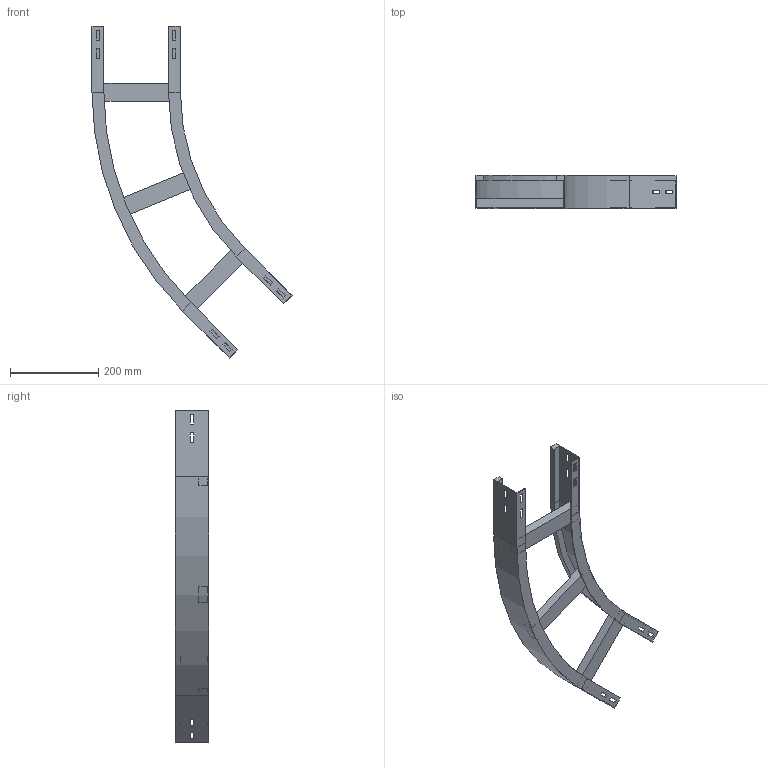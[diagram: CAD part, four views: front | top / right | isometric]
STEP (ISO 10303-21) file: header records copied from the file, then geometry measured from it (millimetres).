
FILE_DESCRIPTION (( 'STEP AP214' ), '1' );
FILE_NAME ('11B5C200.step', '2025-02-21T15:15:19', ( '' ), ( '' ), 'SwSTEP 2.0', 'SolidWorks 2023', '' );
FILE_SCHEMA (( 'AUTOMOTIVE_DESIGN' ));
Length unit declared in the file: millimetre
Products named in the file (4): TRAVERSINO_200; A2_LONGH.INTERNO 45°_H75_R500; A2_LONGH.ESTERNO 45°_H75_R500+200; 11B5C200
Assembly tree (5 placements, depth 2):
  11B5C200
    A2_LONGH.INTERNO 45°_H75_R500
    A2_LONGH.ESTERNO 45°_H75_R500+200
    TRAVERSINO_200  x3
Bounding box: 452.51 x 75 x 751.04 mm (x, y, z)
Volume: 1076003.3 mm3; surface area: 438528.8 mm2
Topology: 5 solids, 5 shells, 134 faces, 340 edges, 216 vertices
Faces by surface type: plane 126, cylinder 8
Entity records: 3821 total; most frequent: CARTESIAN_POINT 646, ORIENTED_EDGE 632, DIRECTION 592, EDGE_CURVE 316, VECTOR 300, LINE 300, VERTEX_POINT 200, EDGE_LOOP 154
